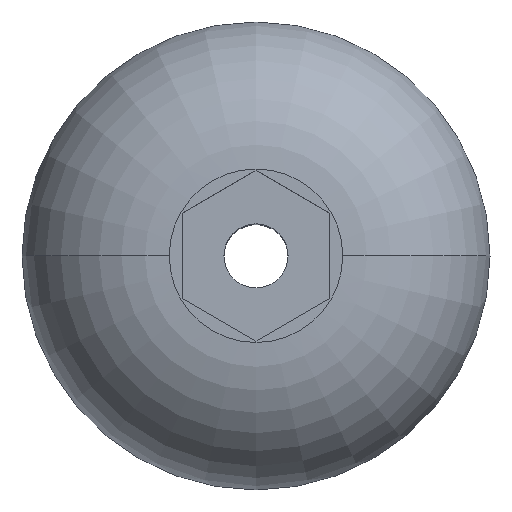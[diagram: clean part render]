
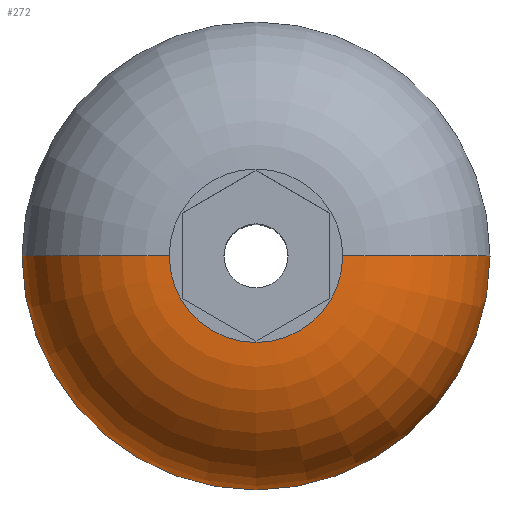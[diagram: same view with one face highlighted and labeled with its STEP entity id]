
A CAD part, top view. The second image highlights one B-rep face of the part: STEP entity #272.
In plain terms, the highlighted toroidal (fillet/blend) face has major radius 1.76 mm and minor radius 3 mm.
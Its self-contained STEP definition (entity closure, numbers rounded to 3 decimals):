
#24 = CARTESIAN_POINT ( 'NONE',  ( 1.76, 0., -0.25 ) ) ;
#43 = CARTESIAN_POINT ( 'NONE',  ( 0., 0., 0. ) ) ;
#135 = DIRECTION ( 'NONE',  ( 1., 0., 0. ) ) ;
#136 = CIRCLE ( 'NONE', #461, 1.76 ) ;
#182 = CARTESIAN_POINT ( 'NONE',  ( -1.76, 0., -0.25 ) ) ;
#208 = VERTEX_POINT ( 'NONE', #568 ) ;
#215 = EDGE_CURVE ( 'NONE', #550, #208, #1184, .T. ) ;
#239 = EDGE_CURVE ( 'NONE', #1307, #550, #1003, .T. ) ;
#240 = DIRECTION ( 'NONE',  ( 0., 0., 1. ) ) ;
#249 = DIRECTION ( 'NONE',  ( 0., 0., -1. ) ) ;
#272 = ADVANCED_FACE ( 'NONE', ( #1363 ), #372, .T. ) ;
#297 = DIRECTION ( 'NONE',  ( 0., 1., 0. ) ) ;
#372 = TOROIDAL_SURFACE ( 'NONE', #688, 1.76, 3. ) ;
#373 = DIRECTION ( 'NONE',  ( 1., 0., 0. ) ) ;
#401 = AXIS2_PLACEMENT_3D ( 'NONE', #43, #815, #135 ) ;
#435 = DIRECTION ( 'NONE',  ( -1., 0., 0. ) ) ;
#461 = AXIS2_PLACEMENT_3D ( 'NONE', #542, #1294, #653 ) ;
#467 = ORIENTED_EDGE ( 'NONE', *, *, #215, .T. ) ;
#542 = CARTESIAN_POINT ( 'NONE',  ( 0., 0., 2.75 ) ) ;
#550 = VERTEX_POINT ( 'NONE', #869 ) ;
#555 = ORIENTED_EDGE ( 'NONE', *, *, #1173, .F. ) ;
#568 = CARTESIAN_POINT ( 'NONE',  ( 1.76, 0., 2.75 ) ) ;
#615 = EDGE_LOOP ( 'NONE', ( #993, #1270, #467, #555 ) ) ;
#622 = AXIS2_PLACEMENT_3D ( 'NONE', #182, #297, #435 ) ;
#653 = DIRECTION ( 'NONE',  ( 1., 0., 0. ) ) ;
#688 = AXIS2_PLACEMENT_3D ( 'NONE', #1155, #240, #373 ) ;
#722 = DIRECTION ( 'NONE',  ( 0., -1., 0. ) ) ;
#815 = DIRECTION ( 'NONE',  ( 0., 0., 1. ) ) ;
#867 = CARTESIAN_POINT ( 'NONE',  ( -1.76, 0., 2.75 ) ) ;
#869 = CARTESIAN_POINT ( 'NONE',  ( 4.75, 0., 0. ) ) ;
#902 = CARTESIAN_POINT ( 'NONE',  ( -4.75, 0., 0. ) ) ;
#993 = ORIENTED_EDGE ( 'NONE', *, *, #1271, .F. ) ;
#1003 = CIRCLE ( 'NONE', #401, 4.75 ) ;
#1151 = AXIS2_PLACEMENT_3D ( 'NONE', #24, #722, #249 ) ;
#1155 = CARTESIAN_POINT ( 'NONE',  ( 0., 0., -0.25 ) ) ;
#1170 = VERTEX_POINT ( 'NONE', #867 ) ;
#1173 = EDGE_CURVE ( 'NONE', #1170, #208, #136, .T. ) ;
#1184 = CIRCLE ( 'NONE', #1151, 3. ) ;
#1270 = ORIENTED_EDGE ( 'NONE', *, *, #239, .T. ) ;
#1271 = EDGE_CURVE ( 'NONE', #1307, #1170, #1392, .T. ) ;
#1294 = DIRECTION ( 'NONE',  ( 0., 0., 1. ) ) ;
#1307 = VERTEX_POINT ( 'NONE', #902 ) ;
#1363 = FACE_OUTER_BOUND ( 'NONE', #615, .T. ) ;
#1392 = CIRCLE ( 'NONE', #622, 3. ) ;
